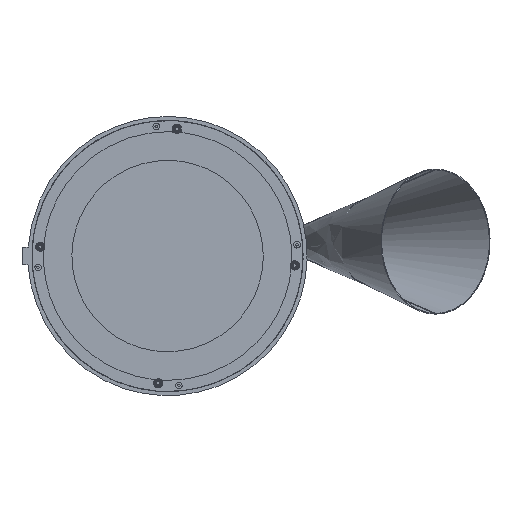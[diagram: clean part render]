
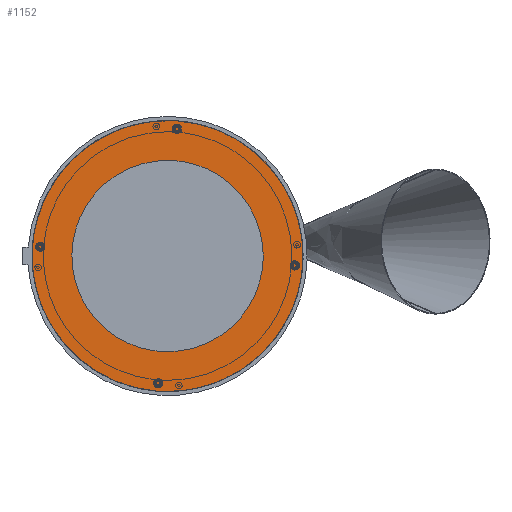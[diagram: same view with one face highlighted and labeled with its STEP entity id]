
A CAD part, front view. The second image highlights one B-rep face of the part: STEP entity #1152.
In plain terms, the highlighted planar face has unit normal (0, -1, 0).
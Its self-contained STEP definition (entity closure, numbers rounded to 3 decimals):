
#1152=ADVANCED_FACE('',(#2382,#1417),#17985,.T.);
#1417=FACE_BOUND('',#3589,.T.);
#2382=FACE_OUTER_BOUND('',#3588,.T.);
#3588=EDGE_LOOP('',(#8368,#8369));
#3589=EDGE_LOOP('',(#8370,#8371));
#8368=ORIENTED_EDGE('',*,*,#11728,.T.);
#8369=ORIENTED_EDGE('',*,*,#11729,.T.);
#8370=ORIENTED_EDGE('',*,*,#11730,.F.);
#8371=ORIENTED_EDGE('',*,*,#11731,.F.);
#11728=EDGE_CURVE('',#16512,#16513,#13228,.T.);
#11729=EDGE_CURVE('',#16513,#16512,#13229,.T.);
#11730=EDGE_CURVE('',#16514,#16515,#13230,.T.);
#11731=EDGE_CURVE('',#16515,#16514,#13231,.T.);
#13228=(
BOUNDED_CURVE()
B_SPLINE_CURVE(2,(#51614,#51615,#51616,#51617,#51618),.UNSPECIFIED.,.F.,
 .F.)
B_SPLINE_CURVE_WITH_KNOTS((3,2,3),(0.,267.035,534.071),
 .UNSPECIFIED.)
CURVE()
GEOMETRIC_REPRESENTATION_ITEM()
RATIONAL_B_SPLINE_CURVE((1.,0.707,1.,0.707,1.))
REPRESENTATION_ITEM('')
);
#13229=(
BOUNDED_CURVE()
B_SPLINE_CURVE(2,(#51619,#51620,#51621,#51622,#51623),.UNSPECIFIED.,.F.,
 .F.)
B_SPLINE_CURVE_WITH_KNOTS((3,2,3),(0.,267.035,534.071),
 .UNSPECIFIED.)
CURVE()
GEOMETRIC_REPRESENTATION_ITEM()
RATIONAL_B_SPLINE_CURVE((1.,0.707,1.,0.707,1.))
REPRESENTATION_ITEM('')
);
#13230=(
BOUNDED_CURVE()
B_SPLINE_CURVE(2,(#51624,#51625,#51626,#51627,#51628),.UNSPECIFIED.,.F.,
 .F.)
B_SPLINE_CURVE_WITH_KNOTS((3,2,3),(0.,188.496,376.991),
 .UNSPECIFIED.)
CURVE()
GEOMETRIC_REPRESENTATION_ITEM()
RATIONAL_B_SPLINE_CURVE((1.,0.707,1.,0.707,1.))
REPRESENTATION_ITEM('')
);
#13231=(
BOUNDED_CURVE()
B_SPLINE_CURVE(2,(#51629,#51630,#51631,#51632,#51633),.UNSPECIFIED.,.F.,
 .F.)
B_SPLINE_CURVE_WITH_KNOTS((3,2,3),(0.,188.496,376.991),
 .UNSPECIFIED.)
CURVE()
GEOMETRIC_REPRESENTATION_ITEM()
RATIONAL_B_SPLINE_CURVE((1.,0.707,1.,0.707,1.))
REPRESENTATION_ITEM('')
);
#16512=VERTEX_POINT('',#51606);
#16513=VERTEX_POINT('',#51607);
#16514=VERTEX_POINT('',#51608);
#16515=VERTEX_POINT('',#51609);
#17985=PLANE('',#18231);
#18231=AXIS2_PLACEMENT_3D('',#51564,#18460,$);
#18460=DIRECTION('',(0.,-1.,0.));
#51564=CARTESIAN_POINT('',(-157.032,-1.2,182.047));
#51606=CARTESIAN_POINT('',(-12.508,-1.2,-169.539));
#51607=CARTESIAN_POINT('',(12.508,-1.2,169.539));
#51608=CARTESIAN_POINT('',(8.829,-1.2,119.675));
#51609=CARTESIAN_POINT('',(-8.829,-1.2,-119.675));
#51614=CARTESIAN_POINT('',(-12.508,-1.2,-169.539));
#51615=CARTESIAN_POINT('',(157.032,-1.2,-182.047));
#51616=CARTESIAN_POINT('',(169.539,-1.2,-12.508));
#51617=CARTESIAN_POINT('',(182.047,-1.2,157.032));
#51618=CARTESIAN_POINT('',(12.508,-1.2,169.539));
#51619=CARTESIAN_POINT('',(12.508,-1.2,169.539));
#51620=CARTESIAN_POINT('',(-157.032,-1.2,182.047));
#51621=CARTESIAN_POINT('',(-169.539,-1.2,12.508));
#51622=CARTESIAN_POINT('',(-182.047,-1.2,-157.032));
#51623=CARTESIAN_POINT('',(-12.508,-1.2,-169.539));
#51624=CARTESIAN_POINT('',(8.829,-1.2,119.675));
#51625=CARTESIAN_POINT('',(-110.846,-1.2,128.504));
#51626=CARTESIAN_POINT('',(-119.675,-1.2,8.829));
#51627=CARTESIAN_POINT('',(-128.504,-1.2,-110.846));
#51628=CARTESIAN_POINT('',(-8.829,-1.2,-119.675));
#51629=CARTESIAN_POINT('',(-8.829,-1.2,-119.675));
#51630=CARTESIAN_POINT('',(110.846,-1.2,-128.504));
#51631=CARTESIAN_POINT('',(119.675,-1.2,-8.829));
#51632=CARTESIAN_POINT('',(128.504,-1.2,110.846));
#51633=CARTESIAN_POINT('',(8.829,-1.2,119.675));
